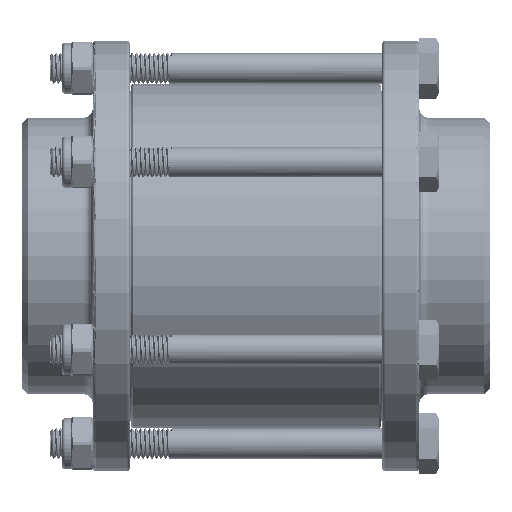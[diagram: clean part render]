
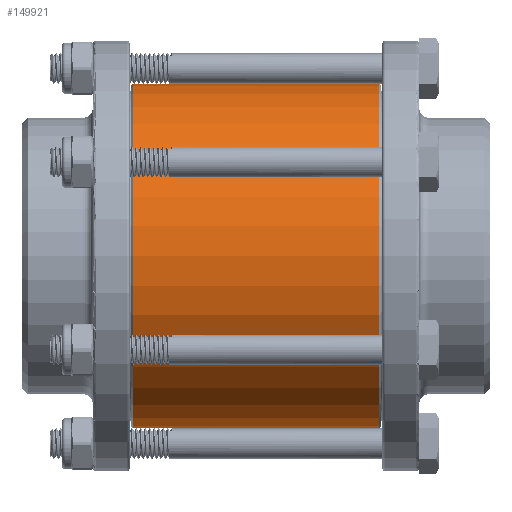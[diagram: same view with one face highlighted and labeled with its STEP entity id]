
A CAD part, front view. The second image highlights one B-rep face of the part: STEP entity #149921.
In plain terms, the highlighted cylindrical face has radius 56 mm (diameter 112 mm), a partial arc.
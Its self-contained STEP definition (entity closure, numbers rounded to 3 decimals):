
#61212=CARTESIAN_POINT('',(40.1,0.,0.));
#61213=DIRECTION('',(1.,0.,0.));
#61214=DIRECTION('',(0.,0.,1.));
#61215=AXIS2_PLACEMENT_3D('',#61212,#61213,#61214);
#61220=DIRECTION('',(1.,0.,0.));
#61221=VECTOR('',#61220,80.2);
#61222=CARTESIAN_POINT('',(-40.1,0.,
-56.));
#61223=LINE('',#61222,#61221);
#61227=CARTESIAN_POINT('',(-40.1,0.,0.));
#61228=DIRECTION('',(1.,0.,0.));
#61229=DIRECTION('',(0.,0.,1.));
#61230=AXIS2_PLACEMENT_3D('',#61227,#61228,#61229);
#61235=DIRECTION('',(1.,0.,0.));
#61236=VECTOR('',#61235,80.2);
#61237=CARTESIAN_POINT('',(-40.1,0.,
56.));
#61238=LINE('',#61237,#61236);
#97943=CARTESIAN_POINT('',(-40.1,0.,56.));
#97944=CARTESIAN_POINT('',(-40.1,0.,-56.));
#97945=VERTEX_POINT('',#97943);
#97946=VERTEX_POINT('',#97944);
#97955=CARTESIAN_POINT('',(40.1,0.,56.));
#97956=CARTESIAN_POINT('',(40.1,0.,-56.));
#97957=VERTEX_POINT('',#97955);
#97958=VERTEX_POINT('',#97956);
#149909=CARTESIAN_POINT('',(44.66,0.,0.));
#149910=DIRECTION('',(-1.,0.,0.));
#149911=DIRECTION('',(0.,0.,-1.));
#149912=AXIS2_PLACEMENT_3D('',#149909,#149910,#149911);
#149913=CYLINDRICAL_SURFACE('',#149912,56.);
#149915=ORIENTED_EDGE('',*,*,#149914,.T.);
#149916=ORIENTED_EDGE('',*,*,#109915,.F.);
#149917=ORIENTED_EDGE('',*,*,#149899,.F.);
#149918=ORIENTED_EDGE('',*,*,#109911,.T.);
#149919=EDGE_LOOP('',(#149915,#149916,#149917,#149918));
#149920=FACE_OUTER_BOUND('',#149919,.F.);
#149921=ADVANCED_FACE('',(#149920),#149913,.T.);
#61216=CIRCLE('',#61215,56.);
#61231=CIRCLE('',#61230,56.);
#109911=EDGE_CURVE('',#97945,#97957,#61238,.T.);
#109915=EDGE_CURVE('',#97946,#97958,#61223,.T.);
#149899=EDGE_CURVE('',#97945,#97946,#61231,.T.);
#149914=EDGE_CURVE('',#97957,#97958,#61216,.T.);
